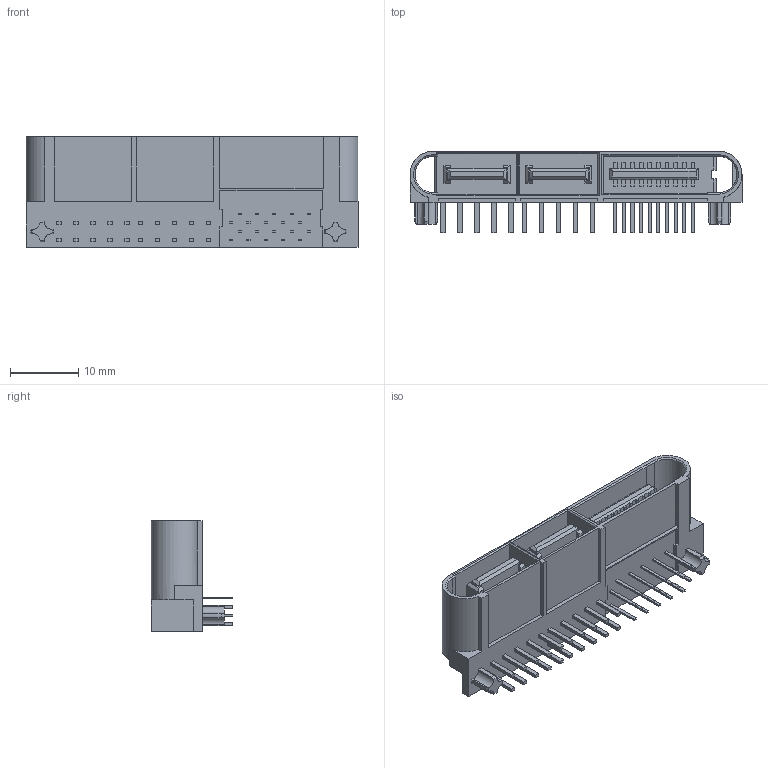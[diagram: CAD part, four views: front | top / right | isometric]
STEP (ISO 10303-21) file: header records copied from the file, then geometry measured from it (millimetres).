
FILE_DESCRIPTION((''),'2;1');
FILE_NAME('459854431','2020-10-29T',('me'),(''),'PRO/ENGINEER BY PARAMETRIC TECHNOLOGY CORPORATION, 2016010','PRO/ENGINEER BY PARAMETRIC TECHNOLOGY CORPORATION, 2016010','');
FILE_SCHEMA(('CONFIG_CONTROL_DESIGN'));
Length unit declared in the file: millimetre
Products named in the file (1): 459854431
Bounding box: 48.74 x 11.99 x 16.28 mm (x, y, z)
Volume: 2876.2 mm3; surface area: 5015.4 mm2
Topology: 1 solids, 1 shells, 808 faces, 2331 edges, 1570 vertices
Faces by surface type: plane 736, cylinder 62, cone 10
Entity records: 26220 total; most frequent: CARTESIAN_POINT 4696, ORIENTED_EDGE 4494, DIRECTION 4183, EDGE_CURVE 2247, VECTOR 2041, LINE 2041, VERTEX_POINT 1486, AXIS2_PLACEMENT_3D 1071
